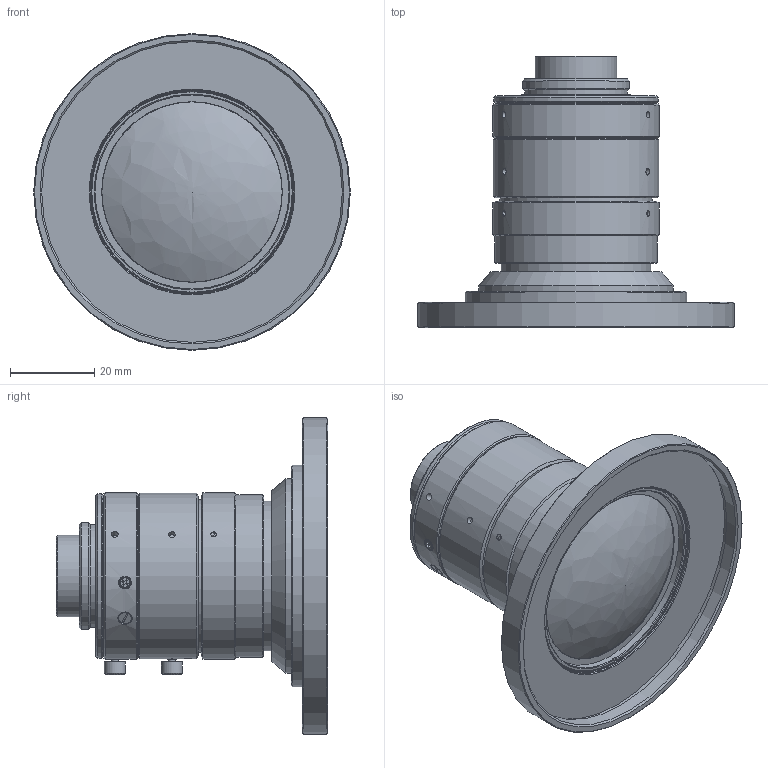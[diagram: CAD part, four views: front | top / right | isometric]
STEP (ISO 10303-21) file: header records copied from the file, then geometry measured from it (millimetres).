
FILE_DESCRIPTION( ( 'Unknown' ), '1' );
FILE_NAME( 'C:/Users/140166/Desktop/V0828-MPY_8mm.stp', 'Unknown', ( 'Unknown' ), ( 'Unknown' ), 'PSStep 17.0.49', 'Unknown', ' ' );
FILE_SCHEMA( ( 'AUTOMOTIVE_DESIGN { 1 0 10303 214 1 1 1 1 }' ) );
Length unit declared in the file: millimetre
Products named in the file (1): V0828-MPY_8mm
Bounding box: 75 x 64.31 x 75 mm (x, y, z)
Volume: 73788.3 mm3; surface area: 19924.7 mm2
Topology: 1 solids, 4 shells, 272 faces, 658 edges, 431 vertices
Faces by surface type: plane 159, cylinder 61, cone 48, torus 2, bspline 1, sphere 1
Full cylindrical faces by diameter (mm): 1.321 x3, 1.5 x1, 1.567 x5, 1.7 x5, 1.8 x3, 2 x1, 2.5 x2, 2.8 x1, 3 x5, 3.4 x1, 3.5 x3, 4.999 x2, 15.4 x1, 19.3 x1, 24.4 x1, 25.4 x1, 36.1 x1, 37.6 x2, 38.5 x1, 39 x1, 39.2 x1, 39.5 x2, 42.7 x1, 42.71 x1, 46 x1, 48.4 x1, 50 x1, 52.5 x1, 71.2 x1, 72 x1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
Entity records: 10159 total; most frequent: CARTESIAN_POINT 2182, DIRECTION 1188, ORIENTED_EDGE 1034, EDGE_CURVE 517, AXIS2_PLACEMENT_3D 430, EDGE_LOOP 414, VERTEX_POINT 390, LINE 328
